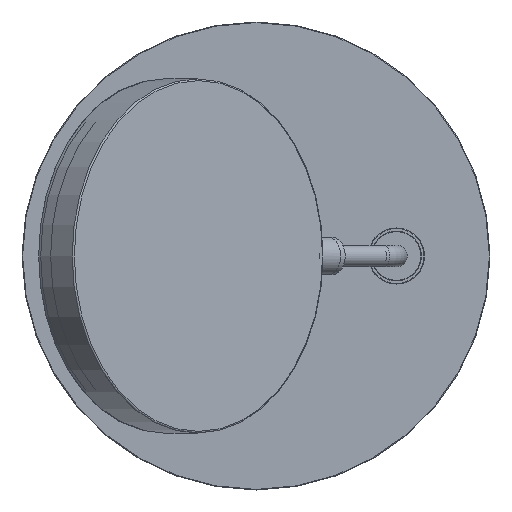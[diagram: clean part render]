
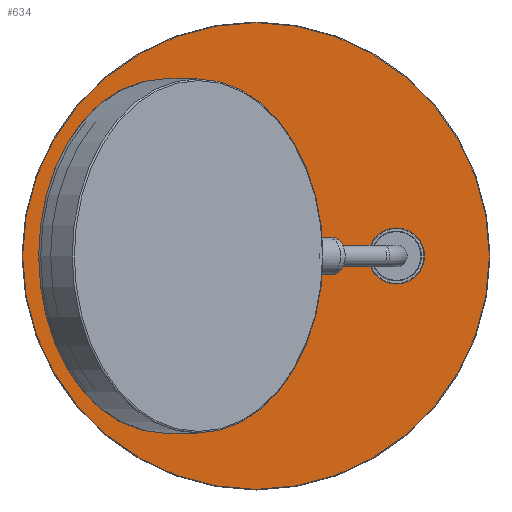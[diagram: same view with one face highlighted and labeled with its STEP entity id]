
A CAD part, front view. The second image highlights one B-rep face of the part: STEP entity #634.
In plain terms, the highlighted planar face has unit normal (0, -1, 0) as drawn and (0, 1, 0) by its records, which use the part's own axes.
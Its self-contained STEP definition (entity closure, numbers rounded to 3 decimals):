
#178=FACE_OUTER_BOUND('',#224,.T.);
#224=EDGE_LOOP('',(#471,#472));
#278=CIRCLE('',#848,74.8);
#279=CIRCLE('',#849,74.8);
#331=VERTEX_POINT('',#1239);
#332=VERTEX_POINT('',#1241);
#385=EDGE_CURVE('',#331,#332,#278,.T.);
#386=EDGE_CURVE('',#332,#331,#279,.T.);
#471=ORIENTED_EDGE('',*,*,#386,.F.);
#472=ORIENTED_EDGE('',*,*,#385,.F.);
#614=PLANE('',#850);
#634=ADVANCED_FACE('',(#178),#614,.T.);
#848=AXIS2_PLACEMENT_3D('',#1242,#981,#982);
#849=AXIS2_PLACEMENT_3D('',#1243,#983,#984);
#850=AXIS2_PLACEMENT_3D('',#1244,#985,#986);
#981=DIRECTION('center_axis',(0.,-1.,0.));
#982=DIRECTION('ref_axis',(1.,0.,0.));
#983=DIRECTION('center_axis',(0.,-1.,0.));
#984=DIRECTION('ref_axis',(1.,0.,0.));
#985=DIRECTION('center_axis',(0.,1.,0.));
#986=DIRECTION('ref_axis',(0.,0.,1.));
#1239=CARTESIAN_POINT('',(-74.8,16.,0.));
#1241=CARTESIAN_POINT('',(74.8,16.,0.));
#1242=CARTESIAN_POINT('Origin',(0.,16.,0.));
#1243=CARTESIAN_POINT('Origin',(0.,16.,0.));
#1244=CARTESIAN_POINT('Origin',(0.,16.,0.));
